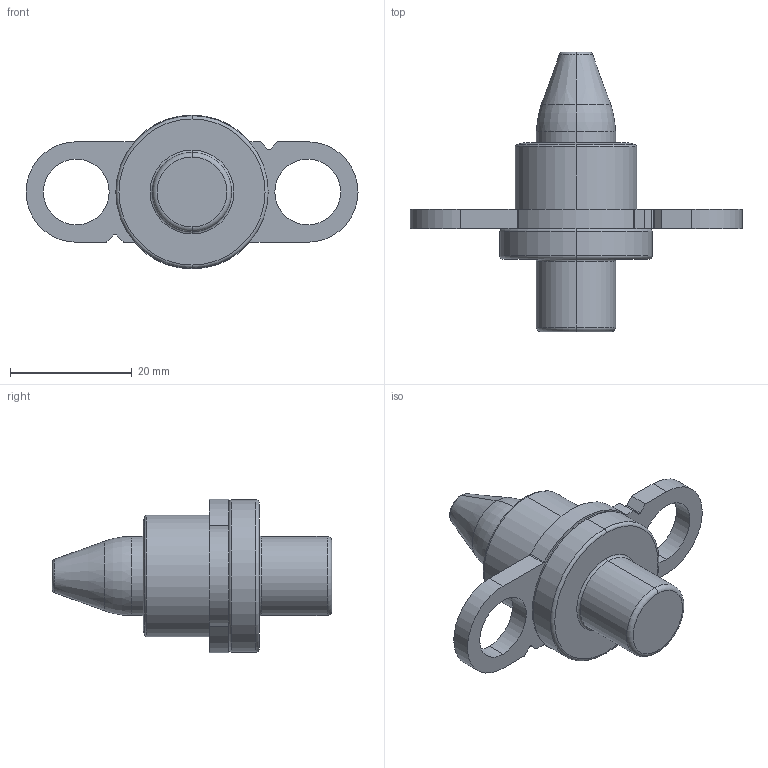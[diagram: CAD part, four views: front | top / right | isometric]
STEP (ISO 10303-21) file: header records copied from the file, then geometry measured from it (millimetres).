
FILE_DESCRIPTION (( 'STEP AP214' ), '1' );
FILE_NAME ('PA-13mm-1.9mm-R-F.stp', '2020-05-01T18:58:46', ( '' ), ( '' ), 'SwSTEP 2.0', 'SolidWorks 2017', '' );
FILE_SCHEMA (( 'AUTOMOTIVE_DESIGN' ));
Length unit declared in the file: inch
Products named in the file (1): PA-13mm-1.9mm-R-F
Bounding box: 54.51 x 45.89 x 25.25 mm (x, y, z)
Volume: 11134.2 mm3; surface area: 4788.8 mm2
Topology: 2 solids, 2 shells, 63 faces, 150 edges, 94 vertices
Faces by surface type: cylinder 28, plane 17, torus 14, cone 4
Entity records: 1911 total; most frequent: DIRECTION 366, CARTESIAN_POINT 308, ORIENTED_EDGE 300, AXIS2_PLACEMENT_3D 152, EDGE_CURVE 150, VERTEX_POINT 94, CIRCLE 88, EDGE_LOOP 72
